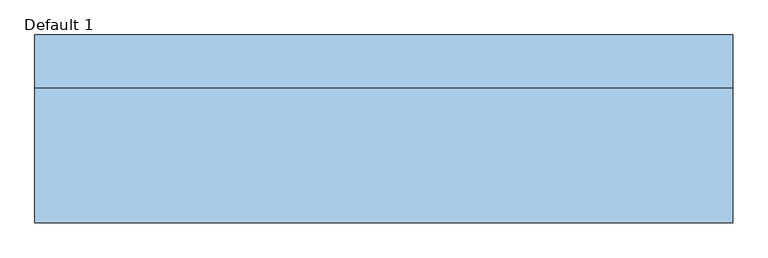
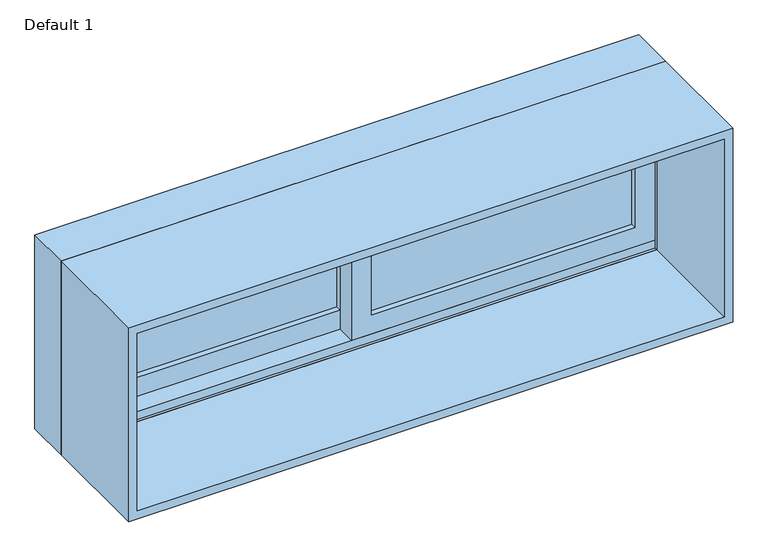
"""IFC4 building model written with IfcOpenShell, lengths in millimetres: window geometry, Planitar-Sliding-Double : Default 1."""

from ifc_helpers import new_model, si_unit, frame, origin, place, context, project, spatial, polyline, outline, extrude, faceted_brep, source, transform, mapped, element, save


def default_1_a34ab814(model_context):
    return source(origin(), model_context, "Body", "SolidModel", [
        extrude(outline(polyline([(933.45, -654.05), (933.45, 22.225), (1352.55, 22.225), (1352.55, -654.05), (933.45, -654.05)]), holes=[polyline([(1308.1, -22.225), (996.95, -22.225), (996.95, -609.6), (1308.1, -609.6), (1308.1, -22.225)])]), frame((0.0, 135.89, 0.0), z_axis=(0.0, 1.0, 0.0), x_axis=(0.0, 0.0, 1.0)), (0.0, 0.0, 1.0), 44.45),
        extrude(outline(polyline([(952.5, 654.05), (1352.55, 654.05), (1352.55, -22.225), (952.5, -22.225), (952.5, 654.05)]), holes=[polyline([(996.95, 22.225), (1308.1, 22.225), (1308.1, 609.6), (996.95, 609.6), (996.95, 22.225)])]), frame((0.0, 91.44, 0.0), z_axis=(0.0, 1.0, 0.0), x_axis=(0.0, 0.0, 1.0)), (0.0, 0.0, 1.0), 44.45),
        faceted_brep([(-673.1, 85.09, 914.4), (-673.1, 186.69, 914.4), (673.1, 186.69, 914.4), (673.1, 85.09, 914.4), (-632.1778905, 186.69, 1330.6778905), (-632.1778905, 180.34, 1330.6778905), (-632.1778905, 180.34, 933.45), (-632.1778905, 186.69, 933.45), (632.1778905, 180.34, 1330.6778905), (632.1778905, 180.34, 933.45), (654.05, 180.34, 933.45), (654.05, 180.34, 1352.55), (-654.05, 180.34, 1352.55), (-654.05, 180.34, 933.45), (-654.05, 85.09, 1352.55), (-654.05, 85.09, 933.45), (-654.05, 91.44, 933.45), (-654.05, 91.44, 952.5), (-654.05, 135.89, 952.5), (-654.05, 135.89, 933.45), (673.1, 85.09, 1371.6), (-673.1, 85.09, 1371.6), (654.05, 85.09, 1352.55), (654.05, 85.09, 933.45), (-673.1, 186.69, 1371.6), (673.1, 186.69, 1371.6), (632.1778905, 186.69, 933.45), (632.1778905, 186.69, 1330.6778905), (654.05, 135.89, 933.45), (654.05, 135.89, 952.5), (654.05, 91.44, 952.5), (654.05, 91.44, 933.45)], [[[0, 1, 2, 3]], [[4, 5, 6, 7]], [[5, 8, 9, 10, 11, 12, 13, 6]], [[12, 14, 15, 16, 17, 18, 19, 13]], [[0, 3, 20, 21], [22, 23, 15, 14]], [[24, 1, 0, 21]], [[2, 1, 24, 25], [4, 7, 26, 27]], [[5, 4, 27, 8]], [[12, 11, 22, 14]], [[21, 20, 25, 24]], [[8, 27, 26, 9]], [[22, 11, 10, 28, 29, 30, 31, 23]], [[20, 3, 2, 25]], [[26, 7, 6, 13, 19, 28, 10, 9]], [[28, 19, 18, 29]], [[29, 18, 17, 30]], [[30, 17, 16, 31]], [[15, 23, 31, 16]]]),
        extrude(outline(polyline([(1371.6, -673.1), (914.4, -673.1), (914.4, 673.1), (1371.6, 673.1), (1371.6, -673.1)]), holes=[polyline([(1352.55, 654.05), (933.45, 654.05), (933.45, -654.05), (1352.55, -654.05), (1352.55, 654.05)])]), frame((0.0, -175.26, 0.0), z_axis=(0.0, 1.0, 0.0), x_axis=(0.0, 0.0, 1.0)), (0.0, 0.0, 1.0), 260.35),
        extrude(outline(polyline([(609.6, 123.19), (609.6, 116.84), (22.225, 116.84), (22.225, 123.19), (609.6, 123.19)])), frame((0.0, 0.0, 996.95), z_axis=(0.0, 0.0, 1.0), x_axis=(1.0, 0.0, 0.0)), (0.0, 0.0, 1.0), 311.15),
        extrude(outline(polyline([(609.6, 110.49), (609.6, 104.14), (22.225, 104.14), (22.225, 110.49), (609.6, 110.49)])), frame((0.0, 0.0, 996.95), z_axis=(0.0, 0.0, 1.0), x_axis=(1.0, 0.0, 0.0)), (0.0, 0.0, 1.0), 311.15),
        extrude(outline(polyline([(-22.225, 167.64), (-22.225, 161.29), (-609.6, 161.29), (-609.6, 167.64), (-22.225, 167.64)])), frame((0.0, 0.0, 996.95), z_axis=(0.0, 0.0, 1.0), x_axis=(1.0, 0.0, 0.0)), (0.0, 0.0, 1.0), 311.15),
        extrude(outline(polyline([(-22.225, 154.94), (-22.225, 148.59), (-609.6, 148.59), (-609.6, 154.94), (-22.225, 154.94)])), frame((0.0, 0.0, 996.95), z_axis=(0.0, 0.0, 1.0), x_axis=(1.0, 0.0, 0.0)), (0.0, 0.0, 1.0), 311.15),
    ])


if __name__ == "__main__":
    model = new_model("IFC4")
    model_context = context("Model", 3, world=origin())
    ifc_project = project(units=[si_unit("LENGTHUNIT", "METRE", prefix="MILLI")], contexts=[model_context])
    site = spatial("IfcSite", under=ifc_project)
    building = spatial("IfcBuilding", under=site)
    placement = place(None, origin())
    default_1_shape = default_1_a34ab814(model_context)
    element("IfcWindow", 1, ObjectType="Planitar-Sliding-Double : Default 1", at=placement, inside=building, context=model_context, shape_type="MappedRepresentation", body=[
        mapped(default_1_shape, transform((0.0, 0.0, 0.0), x_axis=(1.0, 0.0, 0.0), y_axis=(0.0, 1.0, 0.0), z_axis=(0.0, 0.0, 1.0))),
    ])
    save(model, "model.ifc")
